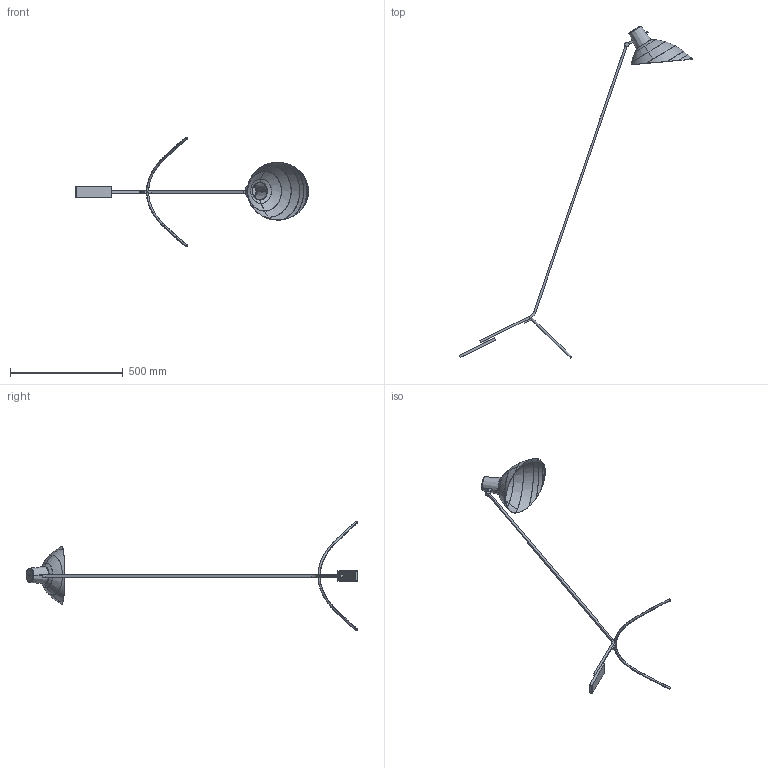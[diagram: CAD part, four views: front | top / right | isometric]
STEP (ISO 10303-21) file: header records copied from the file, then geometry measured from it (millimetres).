
FILE_DESCRIPTION(/* description */ (''),/* implementation_level */ '2;1');
FILE_NAME(/* name */ 'VV Cinquanta Floor CAD',/* time_stamp */ '2017-06-09T13:15:02+02:00',/* author */ (''),/* organization */ (''),/* preprocessor_version */ 'ST-DEVELOPER v15',/* originating_system */ '',/* authorisation */ '');
FILE_SCHEMA (('AUTOMOTIVE_DESIGN'));
Length unit declared in the file: millimetre
Products named in the file (1): Document
Bounding box: 1035.71 x 1472.57 x 487.48 mm (x, y, z)
Volume: 312056.9 mm3; surface area: 289963.6 mm2
Topology: 10 solids, 34 shells, 97 faces, 269 edges, 202 vertices
Faces by surface type: plane 57, bspline 40
Entity records: 5153 total; most frequent: CARTESIAN_POINT 3255, ORIENTED_EDGE 413, EDGE_CURVE 269, VERTEX_POINT 202, B_SPLINE_CURVE_WITH_KNOTS 144, EDGE_LOOP 100, ADVANCED_FACE 97, FACE_OUTER_BOUND 97
